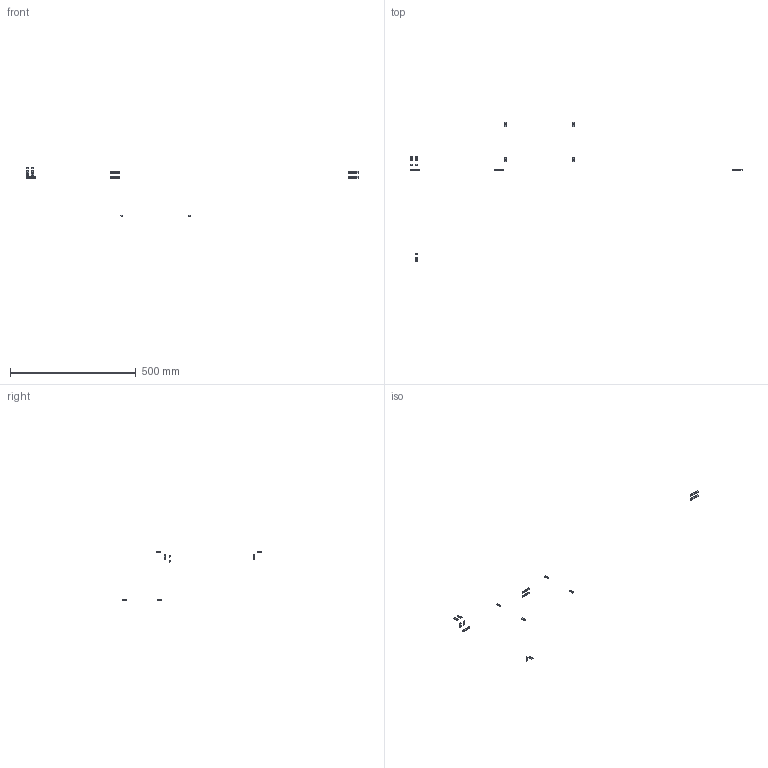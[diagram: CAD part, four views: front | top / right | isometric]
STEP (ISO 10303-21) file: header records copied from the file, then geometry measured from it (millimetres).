
FILE_DESCRIPTION(/* description */ (''),/* implementation_level */ '2;1');
FILE_NAME(/* name */ 'OP3CAD~1',/* time_stamp */ '2014-02-14T19:49:26+01:00',/* author */ (''),/* organization */ (''),/* preprocessor_version */ 'ST-DEVELOPER v14',/* originating_system */ '',/* authorisation */ '');
FILE_SCHEMA (('AUTOMOTIVE_DESIGN'));
Length unit declared in the file: millimetre
Products named in the file (2): Document; nut tslot, post, M5
Assembly tree (20 placements, depth 2):
  Document
    nut tslot, post, M5  x20
Bounding box: 1322 x 555 x 193.4 mm (x, y, z)
Volume: 6300.2 mm3; surface area: 8390.2 mm2
Topology: 20 solids, 20 shells, 260 faces, 720 edges, 480 vertices
Faces by surface type: plane 220, bspline 40
Entity records: 1153 total; most frequent: CARTESIAN_POINT 479, B_SPLINE_CURVE_WITH_KNOTS 100, ORIENTED_EDGE 72, PCURVE 72, DEFINITIONAL_REPRESENTATION 72, DIRECTION 56, SURFACE_CURVE 36, EDGE_CURVE 36
